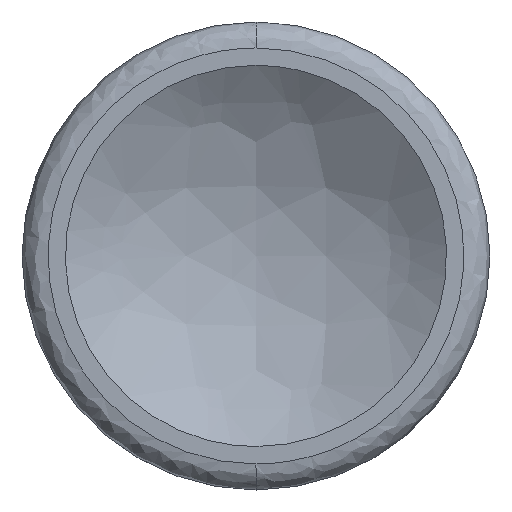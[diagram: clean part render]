
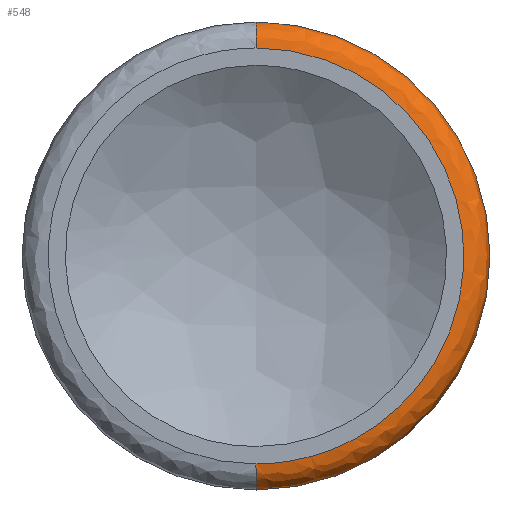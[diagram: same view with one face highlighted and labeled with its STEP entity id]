
A CAD part, top view. The second image highlights one B-rep face of the part: STEP entity #548.
In plain terms, the highlighted free-form (B-spline) face has degree [3, 3] with [4, 4] control points.
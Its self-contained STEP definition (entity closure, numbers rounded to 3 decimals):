
#84 = CARTESIAN_POINT ( 'NONE',  ( 0., 8., 34.5 ) ) ;
#86 = DIRECTION ( 'NONE',  ( 0., 0., -1. ) ) ;
#94 = ORIENTED_EDGE ( 'NONE', *, *, #1430, .F. ) ;
#106 = CARTESIAN_POINT ( 'NONE',  ( 18., 9., 33.5 ) ) ;
#164 = VERTEX_POINT ( 'NONE', #592 ) ;
#248 = CARTESIAN_POINT ( 'NONE',  ( 17.172, -8.586, 34.5 ) ) ;
#253 = ORIENTED_EDGE ( 'NONE', *, *, #1761, .T. ) ;
#403 = CARTESIAN_POINT ( 'NONE',  ( 0., -9., 33.5 ) ) ;
#460 = DIRECTION ( 'NONE',  ( -1., 0., 0. ) ) ;
#490 = CIRCLE ( 'NONE', #855, 1. ) ;
#548 = ADVANCED_FACE ( 'NONE', ( #732 ), #1576, .T. ) ;
#592 = CARTESIAN_POINT ( 'NONE',  ( 0., -8., 34.5 ) ) ;
#667 = ORIENTED_EDGE ( 'NONE', *, *, #1014, .F. ) ;
#732 = FACE_OUTER_BOUND ( 'NONE', #2107, .T. ) ;
#741 = CARTESIAN_POINT ( 'NONE',  ( 0., -8., 34.5 ) ) ;
#754 = CARTESIAN_POINT ( 'NONE',  ( 16., 8., 34.5 ) ) ;
#755 = CARTESIAN_POINT ( 'NONE',  ( 16., 8., 34.5 ) ) ;
#762 = CIRCLE ( 'NONE', #1514, 1. ) ;
#792 = CIRCLE ( 'NONE', #1747, 9. ) ;
#845 =( BOUNDED_CURVE ( )  B_SPLINE_CURVE ( 3, ( #1735, #755, #1543, #741 ),
 .UNSPECIFIED., .F., .F. ) 
 B_SPLINE_CURVE_WITH_KNOTS ( ( 4, 4 ),
 ( 0., 0.5 ),
 .UNSPECIFIED. ) 
 CURVE ( )  GEOMETRIC_REPRESENTATION_ITEM ( )  RATIONAL_B_SPLINE_CURVE ( ( 1., 0.333, 0.333, 1. ) ) 
 REPRESENTATION_ITEM ( '' )  );
#855 = AXIS2_PLACEMENT_3D ( 'NONE', #1775, #1628, #1535 ) ;
#885 = CARTESIAN_POINT ( 'NONE',  ( 0., -8.586, 34.5 ) ) ;
#886 = DIRECTION ( 'NONE',  ( 0., -1., 0. ) ) ;
#965 = VERTEX_POINT ( 'NONE', #2025 ) ;
#1014 = EDGE_CURVE ( 'NONE', #1383, #164, #762, .T. ) ;
#1044 = CARTESIAN_POINT ( 'NONE',  ( 0., 8.586, 34.5 ) ) ;
#1233 = CARTESIAN_POINT ( 'NONE',  ( 18., -9., 34.086 ) ) ;
#1277 = CARTESIAN_POINT ( 'NONE',  ( 16., -8., 34.5 ) ) ;
#1383 = VERTEX_POINT ( 'NONE', #1665 ) ;
#1397 = CARTESIAN_POINT ( 'NONE',  ( 0., 9., 34.086 ) ) ;
#1413 = EDGE_CURVE ( 'NONE', #1765, #164, #845, .T. ) ;
#1430 = EDGE_CURVE ( 'NONE', #965, #1383, #792, .T. ) ;
#1447 = CARTESIAN_POINT ( 'NONE',  ( 0., 8., 34.5 ) ) ;
#1514 = AXIS2_PLACEMENT_3D ( 'NONE', #1911, #460, #1923 ) ;
#1535 = DIRECTION ( 'NONE',  ( 0., 1., 0. ) ) ;
#1543 = CARTESIAN_POINT ( 'NONE',  ( 16., -8., 34.5 ) ) ;
#1563 = CARTESIAN_POINT ( 'NONE',  ( 0., 9., 33.5 ) ) ;
#1576 =( BOUNDED_SURFACE ( )  B_SPLINE_SURFACE ( 3, 3, ( 
 ( #1563, #106, #1859, #403 ),
 ( #1397, #2046, #1233, #1674 ),
 ( #1044, #1696, #248, #885 ),
 ( #1447, #754, #1277, #2085 ) ),
 .UNSPECIFIED., .F., .F., .F. ) 
 B_SPLINE_SURFACE_WITH_KNOTS ( ( 4, 4 ),
 ( 4, 4 ),
 ( 0., 1. ),
 ( 0., 1. ),
 .UNSPECIFIED. ) 
 GEOMETRIC_REPRESENTATION_ITEM ( )  RATIONAL_B_SPLINE_SURFACE ( (
 ( 1., 0.333, 0.333, 1.),
 ( 0.805, 0.268, 0.268, 0.805),
 ( 0.805, 0.268, 0.268, 0.805),
 ( 1., 0.333, 0.333, 1.) ) ) 
 REPRESENTATION_ITEM ( '' )  SURFACE ( )  );
#1628 = DIRECTION ( 'NONE',  ( 1., 0., 0. ) ) ;
#1665 = CARTESIAN_POINT ( 'NONE',  ( 0., -9., 33.5 ) ) ;
#1674 = CARTESIAN_POINT ( 'NONE',  ( 0., -9., 34.086 ) ) ;
#1696 = CARTESIAN_POINT ( 'NONE',  ( 17.172, 8.586, 34.5 ) ) ;
#1735 = CARTESIAN_POINT ( 'NONE',  ( 0., 8., 34.5 ) ) ;
#1747 = AXIS2_PLACEMENT_3D ( 'NONE', #2065, #86, #886 ) ;
#1758 = ORIENTED_EDGE ( 'NONE', *, *, #1413, .T. ) ;
#1761 = EDGE_CURVE ( 'NONE', #965, #1765, #490, .T. ) ;
#1765 = VERTEX_POINT ( 'NONE', #84 ) ;
#1775 = CARTESIAN_POINT ( 'NONE',  ( 0., 8., 33.5 ) ) ;
#1859 = CARTESIAN_POINT ( 'NONE',  ( 18., -9., 33.5 ) ) ;
#1911 = CARTESIAN_POINT ( 'NONE',  ( 0., -8., 33.5 ) ) ;
#1923 = DIRECTION ( 'NONE',  ( 0., -1., 0. ) ) ;
#2025 = CARTESIAN_POINT ( 'NONE',  ( 0., 9., 33.5 ) ) ;
#2046 = CARTESIAN_POINT ( 'NONE',  ( 18., 9., 34.086 ) ) ;
#2065 = CARTESIAN_POINT ( 'NONE',  ( 0., 0., 33.5 ) ) ;
#2085 = CARTESIAN_POINT ( 'NONE',  ( 0., -8., 34.5 ) ) ;
#2107 = EDGE_LOOP ( 'NONE', ( #667, #94, #253, #1758 ) ) ;
